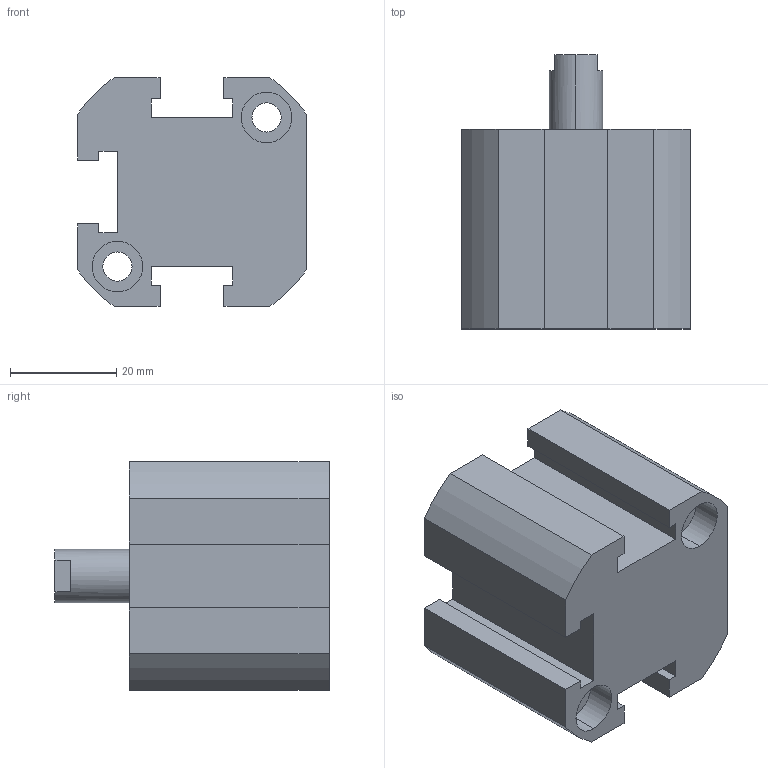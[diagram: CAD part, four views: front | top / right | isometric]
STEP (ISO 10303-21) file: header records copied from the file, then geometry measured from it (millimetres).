
FILE_DESCRIPTION (( 'STEP AP203' ), '1' );
FILE_NAME ('XC#0-25D-10.STEP', '2016-05-23T06:56:30', ( '' ), ( '' ), 'SwSTEP 2.0', 'SolidWorks 2014', '' );
FILE_SCHEMA (( 'CONFIG_CONTROL_DESIGN' ));
Length unit declared in the file: millimetre
Products named in the file (1): XC#0-25D-10
Bounding box: 43 x 51.5 x 43 mm (x, y, z)
Volume: 52053.6 mm3; surface area: 13808.9 mm2
Topology: 1 solids, 1 shells, 88 faces, 225 edges, 146 vertices
Faces by surface type: plane 44, cylinder 40, cone 4
Entity records: 2742 total; most frequent: DIRECTION 483, CARTESIAN_POINT 456, ORIENTED_EDGE 442, EDGE_CURVE 221, AXIS2_PLACEMENT_3D 173, VERTEX_POINT 146, LINE 137, VECTOR 137
